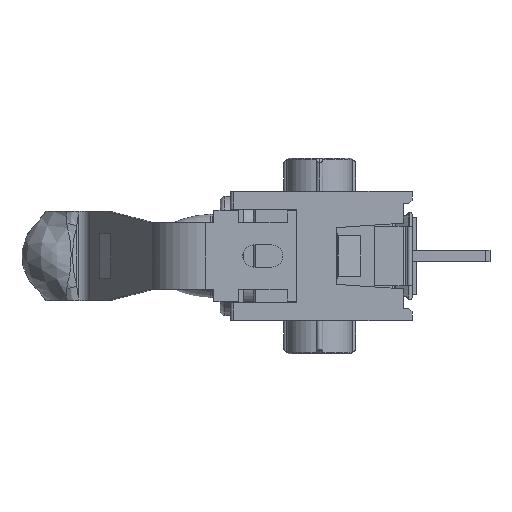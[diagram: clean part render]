
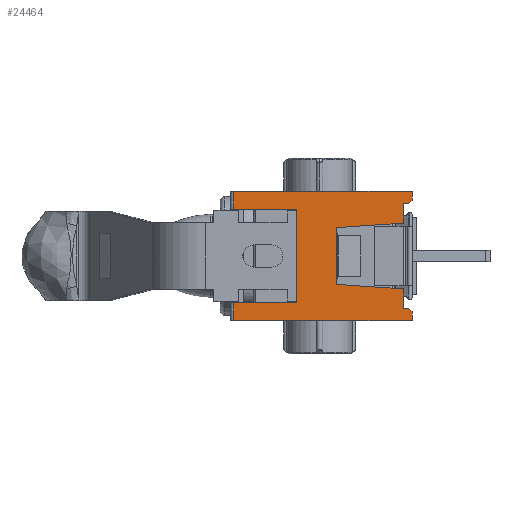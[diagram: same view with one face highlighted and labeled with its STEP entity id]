
A CAD part, left-side view. The second image highlights one B-rep face of the part: STEP entity #24464.
In plain terms, the highlighted planar face has unit normal (-1, 0, 0).
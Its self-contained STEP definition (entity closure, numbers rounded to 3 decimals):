
#13158 = CARTESIAN_POINT ( 'NONE',  ( -6.5, 3.6, 1.275 ) ) ;
#13159 = CARTESIAN_POINT ( 'NONE',  ( -6.5, 3.6, -1.275 ) ) ;
#13160 = DIRECTION ( 'NONE',  ( 0., 0.998, 0.067 ) ) ;
#13161 = VECTOR ( 'NONE', #13160, 1000. ) ;
#13162 = CARTESIAN_POINT ( 'NONE',  ( -6.5, 0.6, -1.475 ) ) ;
#13163 = LINE ( 'NONE', #13162, #13161 ) ;
#13164 = CARTESIAN_POINT ( 'NONE',  ( -6.5, 0.6, -1.475 ) ) ;
#13165 = DIRECTION ( 'NONE',  ( 0., 0., 1. ) ) ;
#13166 = VECTOR ( 'NONE', #13165, 1000. ) ;
#13167 = CARTESIAN_POINT ( 'NONE',  ( -6.5, 0.6, -2.352 ) ) ;
#13168 = LINE ( 'NONE', #13167, #13166 ) ;
#13169 = DIRECTION ( 'NONE',  ( 0., 0., -1. ) ) ;
#13170 = VECTOR ( 'NONE', #13169, 1000. ) ;
#13171 = CARTESIAN_POINT ( 'NONE',  ( -6.5, 8.205, 2.9 ) ) ;
#13172 = LINE ( 'NONE', #13171, #13170 ) ;
#13585 = CARTESIAN_POINT ( 'NONE',  ( -6.5, 8.205, -2.095 ) ) ;
#13586 = DIRECTION ( 'NONE',  ( 0., -1., 0. ) ) ;
#13587 = VECTOR ( 'NONE', #13586, 1000. ) ;
#13588 = CARTESIAN_POINT ( 'NONE',  ( -6.5, 8.355, -2.095 ) ) ;
#13589 = LINE ( 'NONE', #13588, #13587 ) ;
#13590 = CARTESIAN_POINT ( 'NONE',  ( -6.5, 5.39, -2.095 ) ) ;
#13591 = DIRECTION ( 'NONE',  ( 0., 0., -1. ) ) ;
#13592 = VECTOR ( 'NONE', #13591, 1000. ) ;
#13593 = CARTESIAN_POINT ( 'NONE',  ( -6.5, 5.39, -2.095 ) ) ;
#13594 = LINE ( 'NONE', #13593, #13592 ) ;
#13595 = CARTESIAN_POINT ( 'NONE',  ( -6.5, 5.39, 2.095 ) ) ;
#13596 = DIRECTION ( 'NONE',  ( 0., 1., 0. ) ) ;
#13597 = VECTOR ( 'NONE', #13596, 1000. ) ;
#13598 = CARTESIAN_POINT ( 'NONE',  ( -6.5, 8.355, 2.095 ) ) ;
#13599 = LINE ( 'NONE', #13598, #13597 ) ;
#13600 = CARTESIAN_POINT ( 'NONE',  ( -6.5, 8.205, 2.095 ) ) ;
#13601 = DIRECTION ( 'NONE',  ( 0., 0., -1. ) ) ;
#13602 = VECTOR ( 'NONE', #13601, 1000. ) ;
#13603 = CARTESIAN_POINT ( 'NONE',  ( -6.5, 8.205, 2.9 ) ) ;
#13604 = LINE ( 'NONE', #13603, #13602 ) ;
#13605 = DIRECTION ( 'NONE',  ( 0., 0., -1. ) ) ;
#13606 = DIRECTION ( 'NONE',  ( 1., 0., 0. ) ) ;
#13607 = CARTESIAN_POINT ( 'NONE',  ( -6.5, 8.355, 2.9 ) ) ;
#13608 = AXIS2_PLACEMENT_3D ( 'NONE', #13607, #13606, #13605 ) ;
#13609 = PLANE ( 'NONE',  #13608 ) ;
#13624 = FACE_OUTER_BOUND ( 'NONE', #24465, .T. ) ;
#13723 = DIRECTION ( 'NONE',  ( 0., 0., 1. ) ) ;
#13724 = VECTOR ( 'NONE', #13723, 1000. ) ;
#13725 = CARTESIAN_POINT ( 'NONE',  ( -6.5, 0.6, 1.475 ) ) ;
#13726 = LINE ( 'NONE', #13725, #13724 ) ;
#13727 = CARTESIAN_POINT ( 'NONE',  ( -6.5, 0.6, 1.475 ) ) ;
#13728 = DIRECTION ( 'NONE',  ( 0., -0.998, 0.067 ) ) ;
#13729 = VECTOR ( 'NONE', #13728, 1000. ) ;
#13730 = CARTESIAN_POINT ( 'NONE',  ( -6.5, 3.6, 1.275 ) ) ;
#13731 = LINE ( 'NONE', #13730, #13729 ) ;
#13732 = DIRECTION ( 'NONE',  ( 0., 0., 1. ) ) ;
#13733 = VECTOR ( 'NONE', #13732, 1000. ) ;
#13734 = CARTESIAN_POINT ( 'NONE',  ( -6.5, 3.6, -2.352 ) ) ;
#13735 = LINE ( 'NONE', #13734, #13733 ) ;
#16591 = CARTESIAN_POINT ( 'NONE',  ( -6.5, 0.2, 2.9 ) ) ;
#16713 = DIRECTION ( 'NONE',  ( 0., -1., 0. ) ) ;
#16714 = VECTOR ( 'NONE', #16713, 1000. ) ;
#16715 = CARTESIAN_POINT ( 'NONE',  ( -6.5, 8.355, 2.9 ) ) ;
#16803 = LINE ( 'NONE', #16715, #16714 ) ;
#17872 = DIRECTION ( 'NONE',  ( 0., 0.707, 0.707 ) ) ;
#17873 = VECTOR ( 'NONE', #17872, 1000. ) ;
#17874 = CARTESIAN_POINT ( 'NONE',  ( -6.5, 0.2, -2.502 ) ) ;
#17875 = LINE ( 'NONE', #17874, #17873 ) ;
#17924 = DIRECTION ( 'NONE',  ( 0., -1., 0. ) ) ;
#17925 = VECTOR ( 'NONE', #17924, 1000. ) ;
#17926 = CARTESIAN_POINT ( 'NONE',  ( -6.5, 7.77, 2.353 ) ) ;
#17927 = LINE ( 'NONE', #17926, #17925 ) ;
#17928 = CARTESIAN_POINT ( 'NONE',  ( -6.5, 0.2, 2.502 ) ) ;
#18255 = CARTESIAN_POINT ( 'NONE',  ( -6.5, 0.35, 2.352 ) ) ;
#18256 = CARTESIAN_POINT ( 'NONE',  ( -6.5, 0.6, 2.352 ) ) ;
#18282 = CARTESIAN_POINT ( 'NONE',  ( -6.5, 0.2, -2.9 ) ) ;
#18283 = CARTESIAN_POINT ( 'NONE',  ( -6.5, 8.205, -2.9 ) ) ;
#18284 = DIRECTION ( 'NONE',  ( 0., -1., 0. ) ) ;
#18285 = VECTOR ( 'NONE', #18284, 1000. ) ;
#18286 = CARTESIAN_POINT ( 'NONE',  ( -6.5, 8.355, -2.9 ) ) ;
#18287 = LINE ( 'NONE', #18286, #18285 ) ;
#18354 = CARTESIAN_POINT ( 'NONE',  ( -6.5, 0.35, -2.352 ) ) ;
#18355 = CARTESIAN_POINT ( 'NONE',  ( -6.5, 0.2, -2.502 ) ) ;
#18417 = DIRECTION ( 'NONE',  ( 0., 1., 0. ) ) ;
#18418 = VECTOR ( 'NONE', #18417, 1000. ) ;
#18419 = CARTESIAN_POINT ( 'NONE',  ( -6.5, 7.77, -2.353 ) ) ;
#18420 = LINE ( 'NONE', #18419, #18418 ) ;
#18421 = CARTESIAN_POINT ( 'NONE',  ( -6.5, 0.6, -2.352 ) ) ;
#18494 = DIRECTION ( 'NONE',  ( 0., 0., 1. ) ) ;
#18495 = VECTOR ( 'NONE', #18494, 1000. ) ;
#18496 = CARTESIAN_POINT ( 'NONE',  ( -6.5, 0.2, -2.502 ) ) ;
#18497 = LINE ( 'NONE', #18496, #18495 ) ;
#19274 = CARTESIAN_POINT ( 'NONE',  ( -6.5, 8.205, 2.9 ) ) ;
#19451 = DIRECTION ( 'NONE',  ( 0., 0., 1. ) ) ;
#19452 = VECTOR ( 'NONE', #19451, 1000. ) ;
#19453 = CARTESIAN_POINT ( 'NONE',  ( -6.5, 0.2, 2.502 ) ) ;
#19454 = LINE ( 'NONE', #19453, #19452 ) ;
#19507 = DIRECTION ( 'NONE',  ( 0., -0.707, 0.707 ) ) ;
#19508 = VECTOR ( 'NONE', #19507, 1000. ) ;
#19509 = CARTESIAN_POINT ( 'NONE',  ( -6.5, 0.2, 2.502 ) ) ;
#19511 = LINE ( 'NONE', #19509, #19508 ) ;
#22327 = VERTEX_POINT ( 'NONE', #19274 ) ;
#22329 = EDGE_CURVE ( 'NONE', #22327, #22330, #16803, .T. ) ;
#22330 = VERTEX_POINT ( 'NONE', #16591 ) ;
#22932 = EDGE_CURVE ( 'NONE', #23138, #23190, #17875, .T. ) ;
#23005 = VERTEX_POINT ( 'NONE', #17928 ) ;
#23006 = EDGE_CURVE ( 'NONE', #23021, #23022, #17927, .T. ) ;
#23021 = VERTEX_POINT ( 'NONE', #18256 ) ;
#23022 = VERTEX_POINT ( 'NONE', #18255 ) ;
#23138 = VERTEX_POINT ( 'NONE', #18355 ) ;
#23140 = EDGE_CURVE ( 'NONE', #23215, #23138, #18497, .T. ) ;
#23187 = VERTEX_POINT ( 'NONE', #18421 ) ;
#23189 = EDGE_CURVE ( 'NONE', #23190, #23187, #18420, .T. ) ;
#23190 = VERTEX_POINT ( 'NONE', #18354 ) ;
#23213 = EDGE_CURVE ( 'NONE', #23214, #23215, #18287, .T. ) ;
#23214 = VERTEX_POINT ( 'NONE', #18283 ) ;
#23215 = VERTEX_POINT ( 'NONE', #18282 ) ;
#23543 = EDGE_CURVE ( 'NONE', #23022, #23005, #19511, .T. ) ;
#23551 = EDGE_CURVE ( 'NONE', #23005, #22330, #19454, .T. ) ;
#24425 = ORIENTED_EDGE ( 'NONE', *, *, #24426, .T. ) ;
#24426 = EDGE_CURVE ( 'NONE', #24478, #23214, #13172, .T. ) ;
#24427 = ORIENTED_EDGE ( 'NONE', *, *, #23213, .T. ) ;
#24428 = ORIENTED_EDGE ( 'NONE', *, *, #23140, .T. ) ;
#24429 = ORIENTED_EDGE ( 'NONE', *, *, #22932, .T. ) ;
#24430 = ORIENTED_EDGE ( 'NONE', *, *, #23189, .T. ) ;
#24431 = ORIENTED_EDGE ( 'NONE', *, *, #24432, .T. ) ;
#24432 = EDGE_CURVE ( 'NONE', #23187, #24433, #13168, .T. ) ;
#24433 = VERTEX_POINT ( 'NONE', #13164 ) ;
#24434 = ORIENTED_EDGE ( 'NONE', *, *, #24435, .T. ) ;
#24435 = EDGE_CURVE ( 'NONE', #24433, #24436, #13163, .T. ) ;
#24436 = VERTEX_POINT ( 'NONE', #13159 ) ;
#24437 = VERTEX_POINT ( 'NONE', #13158 ) ;
#24446 = ORIENTED_EDGE ( 'NONE', *, *, #24447, .T. ) ;
#24447 = EDGE_CURVE ( 'NONE', #24436, #24437, #13735, .T. ) ;
#24448 = ORIENTED_EDGE ( 'NONE', *, *, #24449, .T. ) ;
#24449 = EDGE_CURVE ( 'NONE', #24437, #24450, #13731, .T. ) ;
#24450 = VERTEX_POINT ( 'NONE', #13727 ) ;
#24451 = ORIENTED_EDGE ( 'NONE', *, *, #24452, .T. ) ;
#24452 = EDGE_CURVE ( 'NONE', #24450, #23021, #13726, .T. ) ;
#24453 = ORIENTED_EDGE ( 'NONE', *, *, #23006, .T. ) ;
#24454 = ORIENTED_EDGE ( 'NONE', *, *, #23543, .T. ) ;
#24455 = ORIENTED_EDGE ( 'NONE', *, *, #23551, .T. ) ;
#24464 = ADVANCED_FACE ( 'NONE', ( #13624 ), #13609, .F. ) ;
#24465 = EDGE_LOOP ( 'NONE', ( #24466, #24467, #24470, #24473, #24476, #24425, #24427, #24428, #24429, #24430, #24431, #24434, #24446, #24448, #24451, #24453, #24454, #24455 ) ) ;
#24466 = ORIENTED_EDGE ( 'NONE', *, *, #22329, .F. ) ;
#24467 = ORIENTED_EDGE ( 'NONE', *, *, #24468, .T. ) ;
#24468 = EDGE_CURVE ( 'NONE', #22327, #24469, #13604, .T. ) ;
#24469 = VERTEX_POINT ( 'NONE', #13600 ) ;
#24470 = ORIENTED_EDGE ( 'NONE', *, *, #24471, .F. ) ;
#24471 = EDGE_CURVE ( 'NONE', #24472, #24469, #13599, .T. ) ;
#24472 = VERTEX_POINT ( 'NONE', #13595 ) ;
#24473 = ORIENTED_EDGE ( 'NONE', *, *, #24474, .T. ) ;
#24474 = EDGE_CURVE ( 'NONE', #24472, #24475, #13594, .T. ) ;
#24475 = VERTEX_POINT ( 'NONE', #13590 ) ;
#24476 = ORIENTED_EDGE ( 'NONE', *, *, #24477, .F. ) ;
#24477 = EDGE_CURVE ( 'NONE', #24478, #24475, #13589, .T. ) ;
#24478 = VERTEX_POINT ( 'NONE', #13585 ) ;
